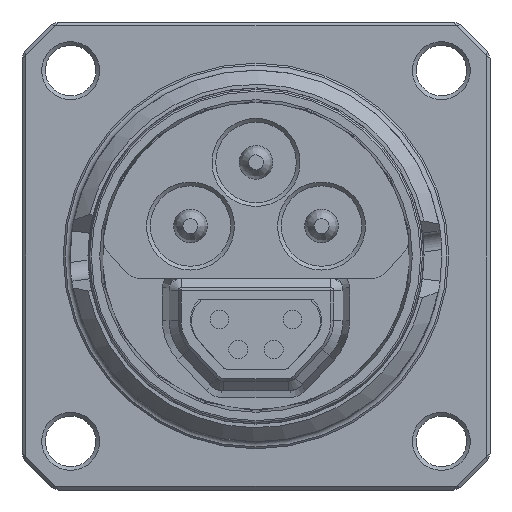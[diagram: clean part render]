
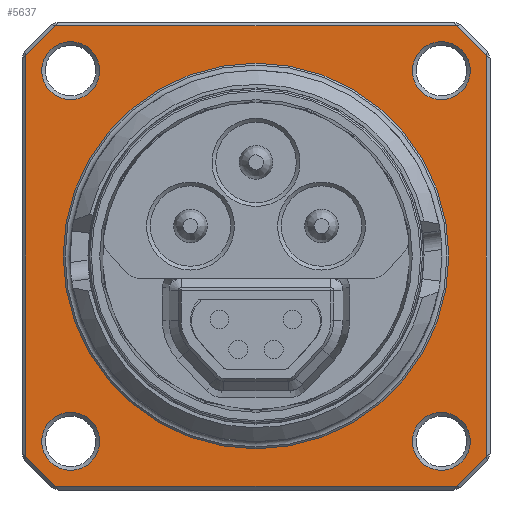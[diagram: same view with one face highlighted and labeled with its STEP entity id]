
A CAD part, front view. The second image highlights one B-rep face of the part: STEP entity #5637.
In plain terms, the highlighted planar face has unit normal (0, -1, 0).
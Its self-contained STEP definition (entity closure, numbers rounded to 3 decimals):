
#245=FACE_BOUND('',#1599,.T.);
#246=FACE_BOUND('',#1600,.T.);
#247=FACE_BOUND('',#1601,.T.);
#248=FACE_BOUND('',#1602,.T.);
#249=FACE_BOUND('',#1603,.T.);
#494=LINE('',#9413,#905);
#495=LINE('',#9417,#906);
#496=LINE('',#9421,#907);
#497=LINE('',#9424,#908);
#905=VECTOR('',#7517,10.);
#906=VECTOR('',#7520,10.);
#907=VECTOR('',#7523,10.);
#908=VECTOR('',#7526,10.);
#1270=FACE_OUTER_BOUND('',#1598,.T.);
#1598=EDGE_LOOP('',(#4313,#4314,#4315,#4316,#4317,#4318,#4319,#4320));
#1599=EDGE_LOOP('',(#4321));
#1600=EDGE_LOOP('',(#4322));
#1601=EDGE_LOOP('',(#4323));
#1602=EDGE_LOOP('',(#4324));
#1603=EDGE_LOOP('',(#4325));
#1944=CIRCLE('',#6178,10.3);
#1962=CIRCLE('',#6207,1.55);
#1963=CIRCLE('',#6209,16.3);
#1964=CIRCLE('',#6210,16.3);
#1965=CIRCLE('',#6211,16.3);
#1966=CIRCLE('',#6212,16.3);
#1967=CIRCLE('',#6213,1.55);
#1968=CIRCLE('',#6214,1.55);
#1969=CIRCLE('',#6215,1.55);
#2378=VERTEX_POINT('',#9354);
#2393=VERTEX_POINT('',#9405);
#2394=VERTEX_POINT('',#9409);
#2395=VERTEX_POINT('',#9410);
#2396=VERTEX_POINT('',#9412);
#2397=VERTEX_POINT('',#9414);
#2398=VERTEX_POINT('',#9416);
#2399=VERTEX_POINT('',#9418);
#2400=VERTEX_POINT('',#9420);
#2401=VERTEX_POINT('',#9422);
#2402=VERTEX_POINT('',#9425);
#2403=VERTEX_POINT('',#9427);
#2404=VERTEX_POINT('',#9429);
#3045=EDGE_CURVE('',#2378,#2378,#1944,.T.);
#3070=EDGE_CURVE('',#2393,#2393,#1962,.T.);
#3071=EDGE_CURVE('',#2394,#2395,#1963,.T.);
#3072=EDGE_CURVE('',#2396,#2394,#494,.T.);
#3073=EDGE_CURVE('',#2397,#2396,#1964,.T.);
#3074=EDGE_CURVE('',#2398,#2397,#495,.T.);
#3075=EDGE_CURVE('',#2399,#2398,#1965,.T.);
#3076=EDGE_CURVE('',#2400,#2399,#496,.T.);
#3077=EDGE_CURVE('',#2401,#2400,#1966,.T.);
#3078=EDGE_CURVE('',#2395,#2401,#497,.T.);
#3079=EDGE_CURVE('',#2402,#2402,#1967,.T.);
#3080=EDGE_CURVE('',#2403,#2403,#1968,.T.);
#3081=EDGE_CURVE('',#2404,#2404,#1969,.T.);
#4313=ORIENTED_EDGE('',*,*,#3071,.F.);
#4314=ORIENTED_EDGE('',*,*,#3072,.F.);
#4315=ORIENTED_EDGE('',*,*,#3073,.F.);
#4316=ORIENTED_EDGE('',*,*,#3074,.F.);
#4317=ORIENTED_EDGE('',*,*,#3075,.F.);
#4318=ORIENTED_EDGE('',*,*,#3076,.F.);
#4319=ORIENTED_EDGE('',*,*,#3077,.F.);
#4320=ORIENTED_EDGE('',*,*,#3078,.F.);
#4321=ORIENTED_EDGE('',*,*,#3045,.T.);
#4322=ORIENTED_EDGE('',*,*,#3079,.F.);
#4323=ORIENTED_EDGE('',*,*,#3080,.F.);
#4324=ORIENTED_EDGE('',*,*,#3081,.F.);
#4325=ORIENTED_EDGE('',*,*,#3070,.F.);
#5064=PLANE('',#6208);
#5637=ADVANCED_FACE('',(#1270,#245,#246,#247,#248,#249),#5064,.T.);
#6178=AXIS2_PLACEMENT_3D('',#9356,#7446,#7447);
#6207=AXIS2_PLACEMENT_3D('',#9407,#7511,#7512);
#6208=AXIS2_PLACEMENT_3D('',#9408,#7513,#7514);
#6209=AXIS2_PLACEMENT_3D('',#9411,#7515,#7516);
#6210=AXIS2_PLACEMENT_3D('',#9415,#7518,#7519);
#6211=AXIS2_PLACEMENT_3D('',#9419,#7521,#7522);
#6212=AXIS2_PLACEMENT_3D('',#9423,#7524,#7525);
#6213=AXIS2_PLACEMENT_3D('',#9426,#7527,#7528);
#6214=AXIS2_PLACEMENT_3D('',#9428,#7529,#7530);
#6215=AXIS2_PLACEMENT_3D('',#9430,#7531,#7532);
#7446=DIRECTION('center_axis',(0.,1.,0.));
#7447=DIRECTION('ref_axis',(0.,0.,1.));
#7511=DIRECTION('center_axis',(0.,-1.,0.));
#7512=DIRECTION('ref_axis',(0.,0.,
-1.));
#7513=DIRECTION('center_axis',(0.,-1.,0.));
#7514=DIRECTION('ref_axis',(0.,0.,1.));
#7515=DIRECTION('center_axis',(0.,1.,0.));
#7516=DIRECTION('ref_axis',(0.758,0.,0.653));
#7517=DIRECTION('',(1.,0.,0.));
#7518=DIRECTION('center_axis',(0.,1.,0.));
#7519=DIRECTION('ref_axis',(-0.653,0.,0.758));
#7520=DIRECTION('',(0.,0.,1.));
#7521=DIRECTION('center_axis',(0.,1.,0.));
#7522=DIRECTION('ref_axis',(-0.758,0.,-0.653));
#7523=DIRECTION('',(-1.,0.,0.));
#7524=DIRECTION('center_axis',(0.,1.,0.));
#7525=DIRECTION('ref_axis',(0.653,0.,-0.758));
#7526=DIRECTION('',(0.,0.,-1.));
#7527=DIRECTION('center_axis',(0.,-1.,0.));
#7528=DIRECTION('ref_axis',(0.,0.,
-1.));
#7529=DIRECTION('center_axis',(0.,-1.,0.));
#7530=DIRECTION('ref_axis',(0.,0.,
-1.));
#7531=DIRECTION('center_axis',(0.,-1.,0.));
#7532=DIRECTION('ref_axis',(0.,0.,
-1.));
#9354=CARTESIAN_POINT('',(-1.255,-11.492,-10.224));
#9356=CARTESIAN_POINT('Origin',(-1.255,-11.492,0.076));
#9405=CARTESIAN_POINT('',(8.645,-11.492,11.526));
#9407=CARTESIAN_POINT('Origin',(8.645,-11.492,9.976));
#9408=CARTESIAN_POINT('Origin',(-12.755,-11.492,0.076));
#9409=CARTESIAN_POINT('',(9.441,-11.492,12.376));
#9410=CARTESIAN_POINT('',(11.045,-11.492,10.772));
#9411=CARTESIAN_POINT('Origin',(-1.255,-11.492,0.076));
#9412=CARTESIAN_POINT('',(-11.951,-11.492,12.376));
#9413=CARTESIAN_POINT('',(-12.39,-11.492,12.376));
#9414=CARTESIAN_POINT('',(-13.555,-11.492,10.772));
#9415=CARTESIAN_POINT('Origin',(-1.255,-11.492,0.076));
#9416=CARTESIAN_POINT('',(-13.555,-11.492,-10.619));
#9417=CARTESIAN_POINT('',(-13.555,-11.492,-5.309));
#9418=CARTESIAN_POINT('',(-11.951,-11.492,-12.224));
#9419=CARTESIAN_POINT('Origin',(-1.255,-11.492,0.076));
#9420=CARTESIAN_POINT('',(9.441,-11.492,-12.224));
#9421=CARTESIAN_POINT('',(-1.62,-11.492,-12.224));
#9422=CARTESIAN_POINT('',(11.045,-11.492,-10.619));
#9423=CARTESIAN_POINT('Origin',(-1.255,-11.492,0.076));
#9424=CARTESIAN_POINT('',(11.045,-11.492,5.461));
#9425=CARTESIAN_POINT('',(8.645,-11.492,-8.274));
#9426=CARTESIAN_POINT('Origin',(8.645,-11.492,-9.824));
#9427=CARTESIAN_POINT('',(-11.155,-11.492,11.526));
#9428=CARTESIAN_POINT('Origin',(-11.155,-11.492,9.976));
#9429=CARTESIAN_POINT('',(-11.155,-11.492,-8.274));
#9430=CARTESIAN_POINT('Origin',(-11.155,-11.492,-9.824));
